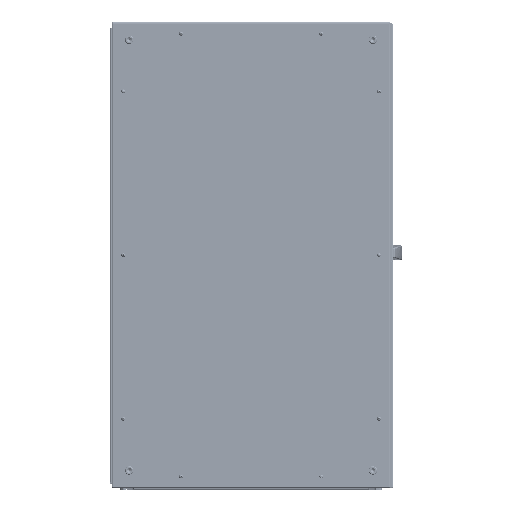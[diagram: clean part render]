
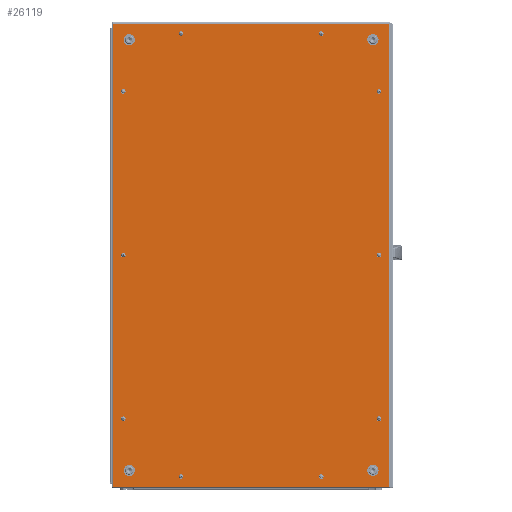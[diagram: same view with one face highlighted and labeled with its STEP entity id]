
A CAD part, top view. The second image highlights one B-rep face of the part: STEP entity #26119.
In plain terms, the highlighted planar face has unit normal (0, 0, 1).
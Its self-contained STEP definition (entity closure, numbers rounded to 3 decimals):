
#26119=ADVANCED_FACE('',(#160024,#160026,#160028,#160030,#160032,#160034,#160036,
#160038,#160040,#160042,#160044,#160046,#160048,#160050,#160052),#160054,.T.);
#160024=FACE_BOUND('',#160025,.T.);
#160025=EDGE_LOOP('',(#387422,#387423,#387424,#387425));
#160026=FACE_BOUND('',#160027,.T.);
#160027=EDGE_LOOP('',(#387426));
#160028=FACE_BOUND('',#160029,.T.);
#160029=EDGE_LOOP('',(#387427));
#160030=FACE_BOUND('',#160031,.T.);
#160031=EDGE_LOOP('',(#387428));
#160032=FACE_BOUND('',#160033,.T.);
#160033=EDGE_LOOP('',(#387429));
#160034=FACE_BOUND('',#160035,.T.);
#160035=EDGE_LOOP('',(#387430));
#160036=FACE_BOUND('',#160037,.T.);
#160037=EDGE_LOOP('',(#387431));
#160038=FACE_BOUND('',#160039,.T.);
#160039=EDGE_LOOP('',(#387432));
#160040=FACE_BOUND('',#160041,.T.);
#160041=EDGE_LOOP('',(#387433));
#160042=FACE_BOUND('',#160043,.T.);
#160043=EDGE_LOOP('',(#387434));
#160044=FACE_BOUND('',#160045,.T.);
#160045=EDGE_LOOP('',(#387435));
#160046=FACE_BOUND('',#160047,.T.);
#160047=EDGE_LOOP('',(#387436));
#160048=FACE_BOUND('',#160049,.T.);
#160049=EDGE_LOOP('',(#387437));
#160050=FACE_BOUND('',#160051,.T.);
#160051=EDGE_LOOP('',(#387438));
#160052=FACE_BOUND('',#160053,.T.);
#160053=EDGE_LOOP('',(#387439));
#160054=PLANE('',#160055);
#160055=AXIS2_PLACEMENT_3D('',#160056,#160057,#160058);
#160056=CARTESIAN_POINT('',(0.,0.,1.5));
#160057=DIRECTION('',(0.,0.,1.));
#160058=DIRECTION('',(0.,1.,0.));
#387422=ORIENTED_EDGE('',*,*,#437179,.T.);
#387423=ORIENTED_EDGE('',*,*,#437180,.T.);
#387424=ORIENTED_EDGE('',*,*,#437181,.T.);
#387425=ORIENTED_EDGE('',*,*,#437182,.T.);
#387426=ORIENTED_EDGE('',*,*,#437158,.T.);
#387427=ORIENTED_EDGE('',*,*,#437157,.T.);
#387428=ORIENTED_EDGE('',*,*,#437156,.T.);
#387429=ORIENTED_EDGE('',*,*,#437155,.T.);
#387430=ORIENTED_EDGE('',*,*,#437154,.T.);
#387431=ORIENTED_EDGE('',*,*,#437153,.T.);
#387432=ORIENTED_EDGE('',*,*,#437149,.T.);
#387433=ORIENTED_EDGE('',*,*,#437150,.T.);
#387434=ORIENTED_EDGE('',*,*,#437151,.T.);
#387435=ORIENTED_EDGE('',*,*,#437152,.T.);
#387436=ORIENTED_EDGE('',*,*,#437147,.T.);
#387437=ORIENTED_EDGE('',*,*,#437146,.T.);
#387438=ORIENTED_EDGE('',*,*,#437145,.T.);
#387439=ORIENTED_EDGE('',*,*,#437144,.T.);
#437144=EDGE_CURVE('',#505178,#505178,#505179,.F.);
#437145=EDGE_CURVE('',#505180,#505180,#505181,.F.);
#437146=EDGE_CURVE('',#505182,#505182,#505183,.F.);
#437147=EDGE_CURVE('',#505184,#505184,#505185,.F.);
#437149=EDGE_CURVE('',#505188,#505188,#505189,.F.);
#437150=EDGE_CURVE('',#505190,#505190,#505191,.F.);
#437151=EDGE_CURVE('',#505192,#505192,#505193,.F.);
#437152=EDGE_CURVE('',#505194,#505194,#505195,.F.);
#437153=EDGE_CURVE('',#505196,#505196,#505197,.F.);
#437154=EDGE_CURVE('',#505198,#505198,#505199,.F.);
#437155=EDGE_CURVE('',#505200,#505200,#505201,.F.);
#437156=EDGE_CURVE('',#505202,#505202,#505203,.F.);
#437157=EDGE_CURVE('',#505204,#505204,#505205,.F.);
#437158=EDGE_CURVE('',#505206,#505206,#505207,.F.);
#437179=EDGE_CURVE('',#505244,#505245,#505246,.T.);
#437180=EDGE_CURVE('',#505245,#505247,#505248,.T.);
#437181=EDGE_CURVE('',#505247,#505249,#505250,.T.);
#437182=EDGE_CURVE('',#505249,#505244,#505251,.T.);
#505178=VERTEX_POINT('',#658690);
#505179=CIRCLE('',#658691,3.75);
#505180=VERTEX_POINT('',#658695);
#505181=CIRCLE('',#658696,3.75);
#505182=VERTEX_POINT('',#658700);
#505183=CIRCLE('',#658701,3.75);
#505184=VERTEX_POINT('',#658705);
#505185=CIRCLE('',#658706,3.75);
#505188=VERTEX_POINT('',#658715);
#505189=CIRCLE('',#658716,7.);
#505190=VERTEX_POINT('',#658720);
#505191=CIRCLE('',#658721,7.);
#505192=VERTEX_POINT('',#658725);
#505193=CIRCLE('',#658726,7.);
#505194=VERTEX_POINT('',#658730);
#505195=CIRCLE('',#658731,7.);
#505196=VERTEX_POINT('',#658735);
#505197=CIRCLE('',#658736,3.75);
#505198=VERTEX_POINT('',#658740);
#505199=CIRCLE('',#658741,3.75);
#505200=VERTEX_POINT('',#658745);
#505201=CIRCLE('',#658746,3.75);
#505202=VERTEX_POINT('',#658750);
#505203=CIRCLE('',#658751,3.75);
#505204=VERTEX_POINT('',#658755);
#505205=CIRCLE('',#658756,3.75);
#505206=VERTEX_POINT('',#658760);
#505207=CIRCLE('',#658761,3.75);
#505244=VERTEX_POINT('',#658977);
#505245=VERTEX_POINT('',#658978);
#505246=LINE('',#658979,#658980);
#505247=VERTEX_POINT('',#658982);
#505248=LINE('',#658983,#658984);
#505249=VERTEX_POINT('',#658986);
#505250=LINE('',#658987,#658988);
#505251=LINE('',#658990,#658991);
#658690=CARTESIAN_POINT('',(-273.5,353.75,1.5));
#658691=AXIS2_PLACEMENT_3D('',#658692,#658693,#658694);
#658692=CARTESIAN_POINT('',(-273.5,350.,1.5));
#658693=DIRECTION('',(0.,0.,1.));
#658694=DIRECTION('',(0.,1.,0.));
#658695=CARTESIAN_POINT('',(273.5,-346.25,1.5));
#658696=AXIS2_PLACEMENT_3D('',#658697,#658698,#658699);
#658697=CARTESIAN_POINT('',(273.5,-350.,1.5));
#658698=DIRECTION('',(0.,0.,1.));
#658699=DIRECTION('',(0.,1.,0.));
#658700=CARTESIAN_POINT('',(273.5,353.75,1.5));
#658701=AXIS2_PLACEMENT_3D('',#658702,#658703,#658704);
#658702=CARTESIAN_POINT('',(273.5,350.,1.5));
#658703=DIRECTION('',(0.,0.,1.));
#658704=DIRECTION('',(0.,1.,0.));
#658705=CARTESIAN_POINT('',(-273.5,-346.25,1.5));
#658706=AXIS2_PLACEMENT_3D('',#658707,#658708,#658709);
#658707=CARTESIAN_POINT('',(-273.5,-350.,1.5));
#658708=DIRECTION('',(0.,0.,1.));
#658709=DIRECTION('',(0.,1.,0.));
#658715=CARTESIAN_POINT('',(260.5,467.5,1.5));
#658716=AXIS2_PLACEMENT_3D('',#658717,#658718,#658719);
#658717=CARTESIAN_POINT('',(260.5,460.5,1.5));
#658718=DIRECTION('',(0.,0.,1.));
#658719=DIRECTION('',(0.,1.,0.));
#658720=CARTESIAN_POINT('',(-260.5,-453.5,1.5));
#658721=AXIS2_PLACEMENT_3D('',#658722,#658723,#658724);
#658722=CARTESIAN_POINT('',(-260.5,-460.5,1.5));
#658723=DIRECTION('',(0.,0.,1.));
#658724=DIRECTION('',(0.,1.,0.));
#658725=CARTESIAN_POINT('',(-260.5,467.5,1.5));
#658726=AXIS2_PLACEMENT_3D('',#658727,#658728,#658729);
#658727=CARTESIAN_POINT('',(-260.5,460.5,1.5));
#658728=DIRECTION('',(0.,0.,1.));
#658729=DIRECTION('',(0.,1.,0.));
#658730=CARTESIAN_POINT('',(260.5,-453.5,1.5));
#658731=AXIS2_PLACEMENT_3D('',#658732,#658733,#658734);
#658732=CARTESIAN_POINT('',(260.5,-460.5,1.5));
#658733=DIRECTION('',(0.,0.,1.));
#658734=DIRECTION('',(0.,1.,0.));
#658735=CARTESIAN_POINT('',(-273.5,3.75,1.5));
#658736=AXIS2_PLACEMENT_3D('',#658737,#658738,#658739);
#658737=CARTESIAN_POINT('',(-273.5,0.,1.5));
#658738=DIRECTION('',(0.,0.,1.));
#658739=DIRECTION('',(0.,1.,0.));
#658740=CARTESIAN_POINT('',(273.5,3.75,1.5));
#658741=AXIS2_PLACEMENT_3D('',#658742,#658743,#658744);
#658742=CARTESIAN_POINT('',(273.5,0.,1.5));
#658743=DIRECTION('',(0.,0.,1.));
#658744=DIRECTION('',(0.,1.,0.));
#658745=CARTESIAN_POINT('',(-150.,-469.75,1.5));
#658746=AXIS2_PLACEMENT_3D('',#658747,#658748,#658749);
#658747=CARTESIAN_POINT('',(-150.,-473.5,1.5));
#658748=DIRECTION('',(0.,0.,1.));
#658749=DIRECTION('',(0.,1.,0.));
#658750=CARTESIAN_POINT('',(150.,477.25,1.5));
#658751=AXIS2_PLACEMENT_3D('',#658752,#658753,#658754);
#658752=CARTESIAN_POINT('',(150.,473.5,1.5));
#658753=DIRECTION('',(0.,0.,1.));
#658754=DIRECTION('',(0.,1.,0.));
#658755=CARTESIAN_POINT('',(-150.,477.25,1.5));
#658756=AXIS2_PLACEMENT_3D('',#658757,#658758,#658759);
#658757=CARTESIAN_POINT('',(-150.,473.5,1.5));
#658758=DIRECTION('',(0.,0.,1.));
#658759=DIRECTION('',(0.,1.,0.));
#658760=CARTESIAN_POINT('',(150.,-469.75,1.5));
#658761=AXIS2_PLACEMENT_3D('',#658762,#658763,#658764);
#658762=CARTESIAN_POINT('',(150.,-473.5,1.5));
#658763=DIRECTION('',(0.,0.,1.));
#658764=DIRECTION('',(0.,1.,0.));
#658977=CARTESIAN_POINT('',(295.2,495.2,1.5));
#658978=CARTESIAN_POINT('',(-295.2,495.2,1.5));
#658979=CARTESIAN_POINT('',(295.2,495.2,1.5));
#658980=VECTOR('',#658981,1.);
#658981=DIRECTION('',(-1.,0.,0.));
#658982=CARTESIAN_POINT('',(-295.2,-495.2,1.5));
#658983=CARTESIAN_POINT('',(-295.2,495.2,1.5));
#658984=VECTOR('',#658985,1.);
#658985=DIRECTION('',(0.,-1.,0.));
#658986=CARTESIAN_POINT('',(295.2,-495.2,1.5));
#658987=CARTESIAN_POINT('',(-295.2,-495.2,1.5));
#658988=VECTOR('',#658989,1.);
#658989=DIRECTION('',(1.,0.,0.));
#658990=CARTESIAN_POINT('',(295.2,-495.2,1.5));
#658991=VECTOR('',#658992,1.);
#658992=DIRECTION('',(0.,1.,0.));
